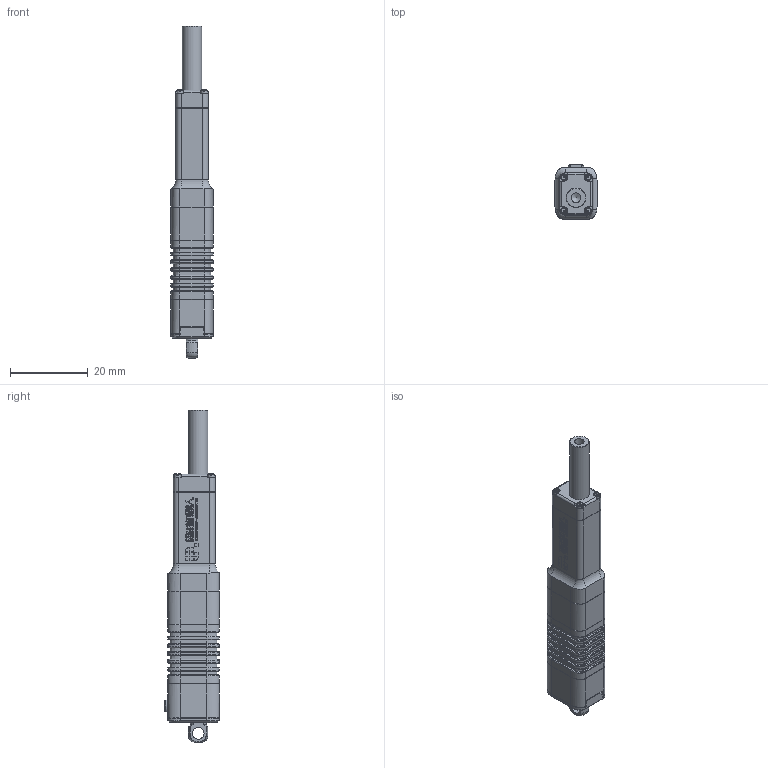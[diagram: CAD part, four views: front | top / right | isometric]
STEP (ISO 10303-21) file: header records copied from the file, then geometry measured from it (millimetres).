
FILE_DESCRIPTION (( 'STEP AP203' ), '1' );
FILE_NAME ('LA16-0x3D-1201.STEP', '2023-12-01T01:52:57', ( '' ), ( '' ), '' );
FILE_SCHEMA (( 'CONFIG_CONTROL_DESIGN' ));
Length unit declared in the file: millimetre
Products named in the file (4): LA16-0x3D-1201; 錨璃8^LA16-0x3D; ACBO-S30; exA820116-015祥凄詩杶奪
Assembly tree (3 placements, depth 2):
  LA16-0x3D-1201
    ACBO-S30
    exA820116-015祥凄詩杶奪
    錨璃8^LA16-0x3D
Bounding box: 10.8 x 14 x 85.2 mm (x, y, z)
Volume: 7358 mm3; surface area: 4132.7 mm2
Topology: 3 solids, 7 shells, 1588 faces, 4123 edges, 2663 vertices
Faces by surface type: plane 872, bspline 568, cylinder 100, torus 29, cone 19
Full cylindrical faces by diameter (mm): 1.1 x4, 1.7 x6, 2 x2, 2.4 x1, 2.5 x1, 3 x1, 4 x2, 5 x2
Entity records: 60388 total; most frequent: CARTESIAN_POINT 25273, ORIENTED_EDGE 8170, DIRECTION 5228, EDGE_CURVE 4085, VERTEX_POINT 2648, LINE 2602, VECTOR 2602, EDGE_LOOP 1729
